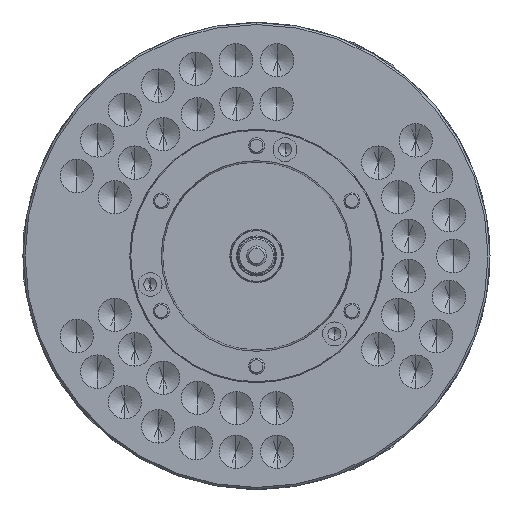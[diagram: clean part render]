
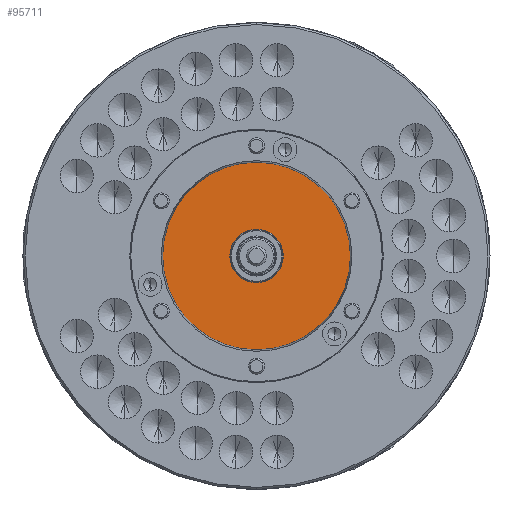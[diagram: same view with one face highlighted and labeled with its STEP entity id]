
A CAD part, left-side view. The second image highlights one B-rep face of the part: STEP entity #95711.
In plain terms, the highlighted planar face has unit normal (-1, 0, 0) as drawn and (0, 0, -1) by its records, which use the part's own axes.
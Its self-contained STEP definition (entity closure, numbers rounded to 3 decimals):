
#555 = DIRECTION ( 'NONE',  ( 0., 0., 1. ) ) ;
#7863 = CIRCLE ( 'NONE', #58874, 40. ) ;
#9359 = CARTESIAN_POINT ( 'NONE',  ( 40., 0., -145. ) ) ;
#10038 = AXIS2_PLACEMENT_3D ( 'NONE', #63304, #555, #73774 ) ;
#12010 = ORIENTED_EDGE ( 'NONE', *, *, #43286, .F. ) ;
#12926 = VERTEX_POINT ( 'NONE', #15184 ) ;
#15184 = CARTESIAN_POINT ( 'NONE',  ( -40., 0., -145. ) ) ;
#15247 = DIRECTION ( 'NONE',  ( 1., 0., 0. ) ) ;
#16964 = DIRECTION ( 'NONE',  ( 0., 0., 1. ) ) ;
#22724 = AXIS2_PLACEMENT_3D ( 'NONE', #79628, #16964, #90153 ) ;
#24881 = CIRCLE ( 'NONE', #61756, 40. ) ;
#25070 = FACE_OUTER_BOUND ( 'NONE', #57587, .T. ) ;
#25662 = CARTESIAN_POINT ( 'NONE',  ( 0., 0., -145. ) ) ;
#29205 = ORIENTED_EDGE ( 'NONE', *, *, #82984, .T. ) ;
#36213 = DIRECTION ( 'NONE',  ( 1., 0., 0. ) ) ;
#42521 = CARTESIAN_POINT ( 'NONE',  ( 140.7, 0., -145. ) ) ;
#43286 = EDGE_CURVE ( 'NONE', #69888, #134040, #113746, .T. ) ;
#52928 = FACE_BOUND ( 'NONE', #78374, .T. ) ;
#53023 = EDGE_CURVE ( 'NONE', #12926, #53990, #24881, .T. ) ;
#53990 = VERTEX_POINT ( 'NONE', #9359 ) ;
#55486 = CARTESIAN_POINT ( 'NONE',  ( 0., 0., -145. ) ) ;
#57587 = EDGE_LOOP ( 'NONE', ( #97345, #12010 ) ) ;
#58874 = AXIS2_PLACEMENT_3D ( 'NONE', #55486, #128496, #65988 ) ;
#61756 = AXIS2_PLACEMENT_3D ( 'NONE', #25662, #98811, #36213 ) ;
#63304 = CARTESIAN_POINT ( 'NONE',  ( 0., 0., -145. ) ) ;
#65988 = DIRECTION ( 'NONE',  ( 1., 0., 0. ) ) ;
#69888 = VERTEX_POINT ( 'NONE', #76168 ) ;
#72251 = AXIS2_PLACEMENT_3D ( 'NONE', #129974, #77923, #15247 ) ;
#73774 = DIRECTION ( 'NONE',  ( 1., 0., 0. ) ) ;
#76168 = CARTESIAN_POINT ( 'NONE',  ( -140.7, 0., -145. ) ) ;
#77923 = DIRECTION ( 'NONE',  ( 0., 0., 1. ) ) ;
#78374 = EDGE_LOOP ( 'NONE', ( #29205, #94719 ) ) ;
#79628 = CARTESIAN_POINT ( 'NONE',  ( 0., 0., -145. ) ) ;
#82984 = EDGE_CURVE ( 'NONE', #53990, #12926, #7863, .T. ) ;
#90153 = DIRECTION ( 'NONE',  ( 1., 0., 0. ) ) ;
#94719 = ORIENTED_EDGE ( 'NONE', *, *, #53023, .T. ) ;
#95711 = ADVANCED_FACE ( 'NONE', ( #52928, #25070 ), #108991, .F. ) ;
#97345 = ORIENTED_EDGE ( 'NONE', *, *, #101088, .F. ) ;
#98811 = DIRECTION ( 'NONE',  ( 0., 0., 1. ) ) ;
#101088 = EDGE_CURVE ( 'NONE', #134040, #69888, #121143, .T. ) ;
#108991 = PLANE ( 'NONE',  #72251 ) ;
#113746 = CIRCLE ( 'NONE', #10038, 140.7 ) ;
#121143 = CIRCLE ( 'NONE', #22724, 140.7 ) ;
#128496 = DIRECTION ( 'NONE',  ( 0., 0., 1. ) ) ;
#129974 = CARTESIAN_POINT ( 'NONE',  ( 0., -140.7, -145. ) ) ;
#134040 = VERTEX_POINT ( 'NONE', #42521 ) ;
